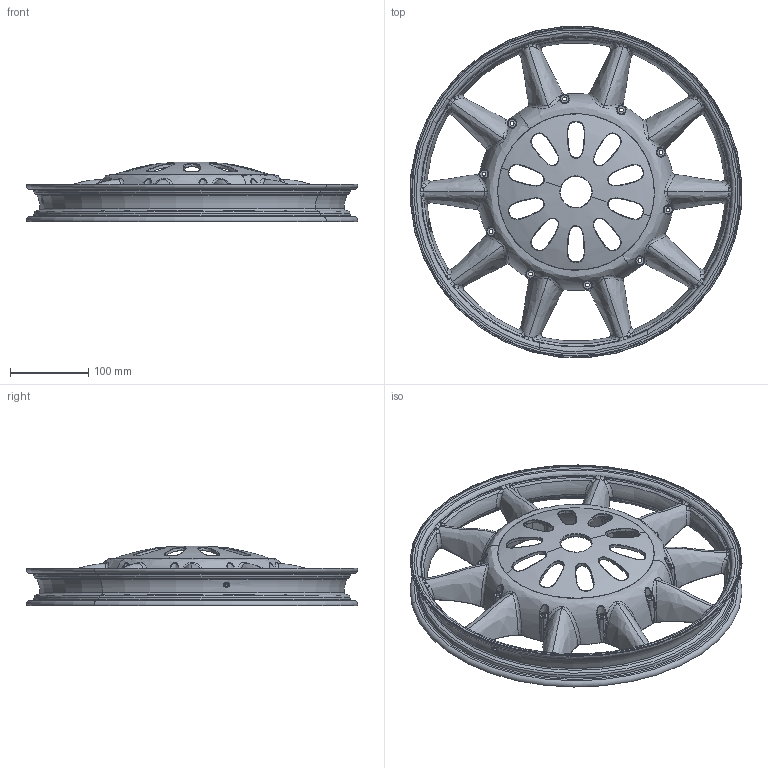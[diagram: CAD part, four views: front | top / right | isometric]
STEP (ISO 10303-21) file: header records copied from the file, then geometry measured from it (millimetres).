
FILE_DESCRIPTION (( 'STEP AP203' ), '1' );
FILE_NAME ('Alligt CBW3 H basic.STEP', '2021-10-18T07:30:01', ( '' ), ( '' ), 'SwSTEP 2.0', 'SolidWorks 2021', '' );
FILE_SCHEMA (( 'CONFIG_CONTROL_DESIGN' ));
Length unit declared in the file: millimetre
Products named in the file (1): Alligt CBW3 H basic
Bounding box: 423.96 x 423.96 x 76 mm (x, y, z)
Volume: 862071.7 mm3; surface area: 442817.5 mm2
Topology: 1 solids, 1 shells, 1832 faces, 4497 edges, 2613 vertices
Faces by surface type: bspline 1273, torus 253, plane 173, cone 94, cylinder 26, sphere 13
Entity records: 158621 total; most frequent: CARTESIAN_POINT 125376, ORIENTED_EDGE 8846, EDGE_CURVE 4423, DIRECTION 4128, B_SPLINE_CURVE_WITH_KNOTS 2687, VERTEX_POINT 2613, EDGE_LOOP 1914, AXIS2_PLACEMENT_3D 1872
